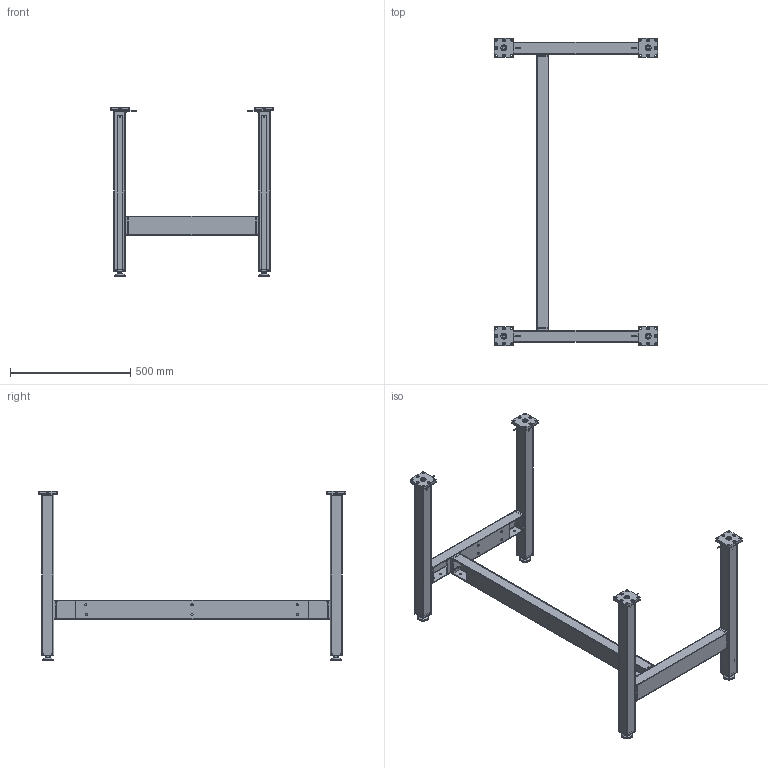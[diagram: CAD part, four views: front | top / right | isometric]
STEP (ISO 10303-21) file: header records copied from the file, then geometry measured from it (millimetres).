
FILE_DESCRIPTION(/* description */ ('Unknown'),/* implementation_level */ '2;1');
FILE_NAME(/* name */ '108.10032_03_eingefahren',/* time_stamp */ '2019-09-20T17:30:51+02:00',/* author */ ('Unknown'),/* organization */ ('Unknown'),/* preprocessor_version */ 'ST-DEVELOPER v16.7',/* originating_system */ 'DEX',/* authorisation */ $);
FILE_SCHEMA (('AUTOMOTIVE_DESIGN {1 0 10303 214 3 1 1}'));
Length unit declared in the file: millimetre
Products named in the file (44): 108.10032; 306.00505_oa_0; 127.00255; Aussenprofil TU L675; Aussenrohr 50x50x673_oa_1; Flanschplatte Aussenrohr; 127.00048; Aussenprofil TU L675_408_866_Kehlnaht 7_oa_2; Aussenprofil TU L675_408_866_Kehlnaht 7_oa_3; Endkappe Kugelführung_oa_4; Spannstift 3x6; Innenprofil TU L647; Innenrohr 40x40x647; Einschweissplatte TU M10; Innenprofil TU L647_443_671_Kehlnaht 2_oa_5; 127.00270; 142.00031; 124.00004; 142.00077; 107.00197_oa_6; 142.00021; 125.00021; 115.00007_oa_7; 125.00033; 113.00002_70mm; 306.00505_oa_8; 107.00197_oa_14; 115.00007_oa_15; 306.00505_oa_16; 107.00197_oa_22; 115.00007_oa_23; 306.00505_oa_24; 107.00197_oa_30; 115.00007_oa_31; 115.00150; 127.00365; 127.00055; 127.00039; 115.00153; 127.00372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
Assembly tree (92 placements, depth 5):
  108.10032
    306.00505_oa_0
      127.00255
        Aussenprofil TU L675
          Aussenrohr 50x50x673_oa_1
          Flanschplatte Aussenrohr
          127.00048
          Aussenprofil TU L675_408_866_Kehlnaht 7_oa_2
          Aussenprofil TU L675_408_866_Kehlnaht 7_oa_3
          Endkappe Kugelführung_oa_4
          Spannstift 3x6  x4
        Innenprofil TU L647
          Innenrohr 40x40x647
          Einschweissplatte TU M10
          Innenprofil TU L647_443_671_Kehlnaht 2_oa_5
      127.00270
      142.00031
      124.00004
      142.00077  x3
      107.00197_oa_6
        142.00021
        125.00021
        115.00007_oa_7
        125.00033
        113.00002_70mm
      113.00002_70mm
    306.00505_oa_8
      127.00255
        Aussenprofil TU L675
          Aussenrohr 50x50x673_oa_1
          Flanschplatte Aussenrohr
          127.00048
          Aussenprofil TU L675_408_866_Kehlnaht 7_oa_2
          Aussenprofil TU L675_408_866_Kehlnaht 7_oa_3
          Endkappe Kugelführung_oa_4
          Spannstift 3x6  x4
        Innenprofil TU L647
          Innenrohr 40x40x647
          Einschweissplatte TU M10
          Innenprofil TU L647_443_671_Kehlnaht 2_oa_5
      127.00270
      142.00031
      124.00004
      142.00077  x3
      107.00197_oa_14
        142.00021
        125.00021
        115.00007_oa_15
        125.00033
        113.00002_70mm
      113.00002_70mm
    306.00505_oa_16
      127.00255
        Aussenprofil TU L675
          Aussenrohr 50x50x673_oa_1
          Flanschplatte Aussenrohr
          127.00048
          Aussenprofil TU L675_408_866_Kehlnaht 7_oa_2
          Aussenprofil TU L675_408_866_Kehlnaht 7_oa_3
          Endkappe Kugelführung_oa_4
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Bounding box: 680 x 1280 x 705.5 mm (x, y, z)
Volume: 4026108 mm3; surface area: 3070108.4 mm2
Topology: 145 solids, 145 shells, 2032 faces, 4940 edges, 3268 vertices
Faces by surface type: plane 1160, cylinder 656, cone 176, torus 36, sphere 4
Full cylindrical faces by diameter (mm): 1.8 x8, 2.2 x8, 2.78 x4, 3 x32, 3.5 x4, 4 x8, 4.1 x4, 4.2 x4, 4.917 x28, 6 x24, 6.5 x12, 6.647 x12, 6.8 x24, 6.917 x8, 8 x12, 8.376 x8, 9 x72, 9.5 x4, 10 x8, 12 x4, 12.5 x4, 13 x20, 13.5 x4, 13.9 x8, 15 x4, 19 x4, 25 x8, 29 x4, 35 x4, 39 x4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
Entity records: 17455 total; most frequent: CARTESIAN_POINT 2711, DIRECTION 2689, ORIENTED_EDGE 2222, EDGE_CURVE 1111, AXIS2_PLACEMENT_3D 1017, VERTEX_POINT 801, FACE_BOUND 796, EDGE_LOOP 794
